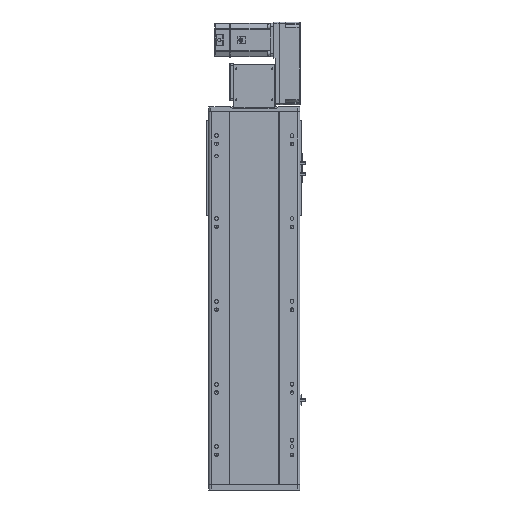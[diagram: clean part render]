
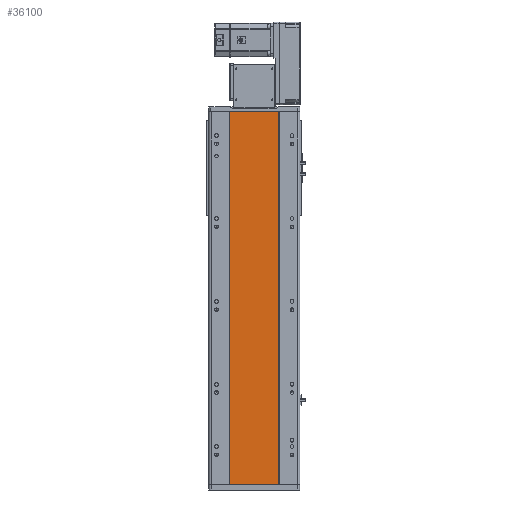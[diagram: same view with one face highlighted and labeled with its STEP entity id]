
A CAD part, front view. The second image highlights one B-rep face of the part: STEP entity #36100.
In plain terms, the highlighted planar face has unit normal (0, -1, 0).
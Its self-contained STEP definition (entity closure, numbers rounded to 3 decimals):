
#1177 = ORIENTED_EDGE ( 'NONE', *, *, #12892, .T. ) ;
#3110 = ORIENTED_EDGE ( 'NONE', *, *, #15115, .F. ) ;
#3743 = CARTESIAN_POINT ( 'NONE',  ( -59., 1., -449.5 ) ) ;
#4320 = DIRECTION ( 'NONE',  ( 0., 0., -1. ) ) ;
#6285 = LINE ( 'NONE', #3743, #7539 ) ;
#6634 = DIRECTION ( 'NONE',  ( 1., 0., 0. ) ) ;
#7539 = VECTOR ( 'NONE', #31523, 1000. ) ;
#9910 = PLANE ( 'NONE',  #14394 ) ;
#10043 = ORIENTED_EDGE ( 'NONE', *, *, #25195, .T. ) ;
#12892 = EDGE_CURVE ( 'NONE', #23663, #17580, #6285, .T. ) ;
#14394 = AXIS2_PLACEMENT_3D ( 'NONE', #25320, #37830, #18020 ) ;
#14871 = LINE ( 'NONE', #30543, #19805 ) ;
#15115 = EDGE_CURVE ( 'NONE', #18835, #17580, #32732, .T. ) ;
#17580 = VERTEX_POINT ( 'NONE', #33500 ) ;
#18020 = DIRECTION ( 'NONE',  ( -1., 0., 0. ) ) ;
#18835 = VERTEX_POINT ( 'NONE', #28947 ) ;
#19805 = VECTOR ( 'NONE', #6634, 1000. ) ;
#21043 = VECTOR ( 'NONE', #4320, 1000. ) ;
#21459 = VERTEX_POINT ( 'NONE', #39655 ) ;
#23663 = VERTEX_POINT ( 'NONE', #33452 ) ;
#24123 = CARTESIAN_POINT ( 'NONE',  ( -59., 1., 449.5 ) ) ;
#25057 = EDGE_CURVE ( 'NONE', #21459, #18835, #14871, .T. ) ;
#25195 = EDGE_CURVE ( 'NONE', #21459, #23663, #50260, .T. ) ;
#25320 = CARTESIAN_POINT ( 'NONE',  ( -59., 1., 449.5 ) ) ;
#27144 = CARTESIAN_POINT ( 'NONE',  ( 59., 1., 449.5 ) ) ;
#27740 = EDGE_LOOP ( 'NONE', ( #1177, #3110, #30849, #10043 ) ) ;
#28947 = CARTESIAN_POINT ( 'NONE',  ( 59., 1., 449.5 ) ) ;
#30543 = CARTESIAN_POINT ( 'NONE',  ( -59., 1., 449.5 ) ) ;
#30849 = ORIENTED_EDGE ( 'NONE', *, *, #25057, .F. ) ;
#31523 = DIRECTION ( 'NONE',  ( 1., 0., 0. ) ) ;
#32732 = LINE ( 'NONE', #27144, #44572 ) ;
#33452 = CARTESIAN_POINT ( 'NONE',  ( -59., 1., -449.5 ) ) ;
#33500 = CARTESIAN_POINT ( 'NONE',  ( 59., 1., -449.5 ) ) ;
#36100 = ADVANCED_FACE ( 'NONE', ( #41244 ), #9910, .F. ) ;
#37830 = DIRECTION ( 'NONE',  ( 0., 1., 0. ) ) ;
#39363 = DIRECTION ( 'NONE',  ( 0., 0., -1. ) ) ;
#39655 = CARTESIAN_POINT ( 'NONE',  ( -59., 1., 449.5 ) ) ;
#41244 = FACE_OUTER_BOUND ( 'NONE', #27740, .T. ) ;
#44572 = VECTOR ( 'NONE', #39363, 1000. ) ;
#50260 = LINE ( 'NONE', #24123, #21043 ) ;
